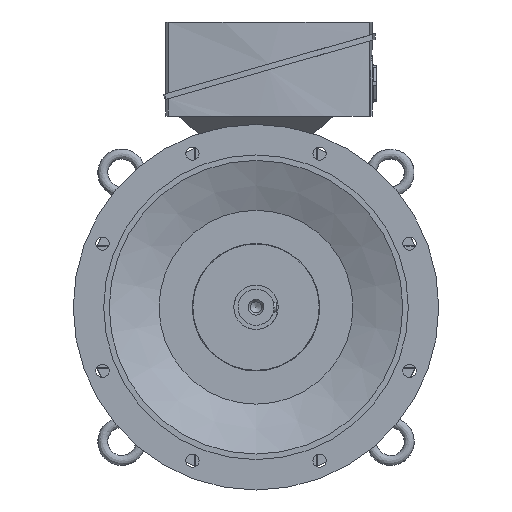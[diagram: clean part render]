
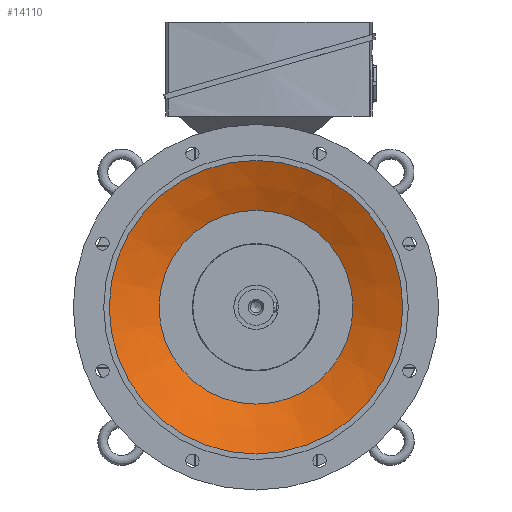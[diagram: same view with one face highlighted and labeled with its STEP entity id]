
A CAD part, left-side view. The second image highlights one B-rep face of the part: STEP entity #14110.
In plain terms, the highlighted conical face has half-angle 67.652 degrees and reference radius 265 mm.
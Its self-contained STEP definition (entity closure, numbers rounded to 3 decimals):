
#1933 = VERTEX_POINT ( 'NONE', #9795 ) ;
#3575 = DIRECTION ( 'NONE',  ( -1., 0., 0. ) ) ;
#6772 = EDGE_LOOP ( 'NONE', ( #55687 ) ) ;
#7756 = CARTESIAN_POINT ( 'NONE',  ( -67., 0., 0. ) ) ;
#9795 = CARTESIAN_POINT ( 'NONE',  ( -67., 0., 175. ) ) ;
#12599 = DIRECTION ( 'NONE',  ( 0., 0., 1. ) ) ;
#14110 = ADVANCED_FACE ( 'NONE', ( #51799, #53182 ), #50213, .F. ) ;
#15678 = ORIENTED_EDGE ( 'NONE', *, *, #60498, .F. ) ;
#19940 = AXIS2_PLACEMENT_3D ( 'NONE', #25228, #49272, #25439 ) ;
#25228 = CARTESIAN_POINT ( 'NONE',  ( -104., 0., 0. ) ) ;
#25340 = EDGE_CURVE ( 'NONE', #35210, #35210, #46887, .T. ) ;
#25439 = DIRECTION ( 'NONE',  ( 0., 0., 1. ) ) ;
#32485 = CARTESIAN_POINT ( 'NONE',  ( -104., 0., 0. ) ) ;
#35210 = VERTEX_POINT ( 'NONE', #38203 ) ;
#37319 = DIRECTION ( 'NONE',  ( 0., 0., 1. ) ) ;
#38203 = CARTESIAN_POINT ( 'NONE',  ( -104., 0., 265. ) ) ;
#39720 = AXIS2_PLACEMENT_3D ( 'NONE', #32485, #3575, #37319 ) ;
#41388 = DIRECTION ( 'NONE',  ( -1., 0., 0. ) ) ;
#46887 = CIRCLE ( 'NONE', #39720, 265. ) ;
#47940 = EDGE_LOOP ( 'NONE', ( #15678 ) ) ;
#49272 = DIRECTION ( 'NONE',  ( -1., 0., 0. ) ) ;
#50213 = CONICAL_SURFACE ( 'NONE', #19940, 265., 1.181 ) ;
#51602 = AXIS2_PLACEMENT_3D ( 'NONE', #7756, #41388, #12599 ) ;
#51799 = FACE_OUTER_BOUND ( 'NONE', #6772, .T. ) ;
#53182 = FACE_BOUND ( 'NONE', #47940, .T. ) ;
#55687 = ORIENTED_EDGE ( 'NONE', *, *, #25340, .T. ) ;
#55899 = CIRCLE ( 'NONE', #51602, 175. ) ;
#60498 = EDGE_CURVE ( 'NONE', #1933, #1933, #55899, .T. ) ;
